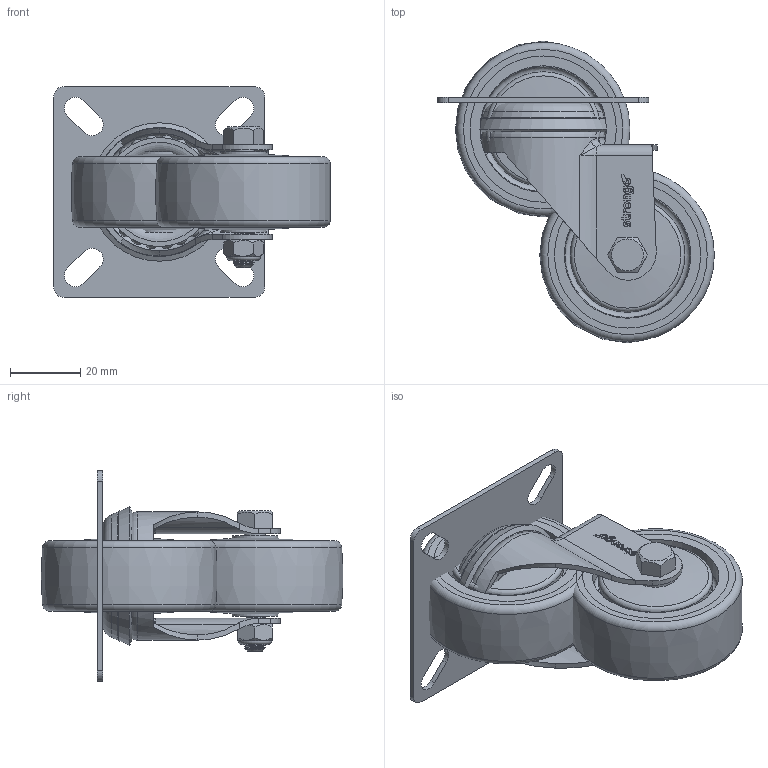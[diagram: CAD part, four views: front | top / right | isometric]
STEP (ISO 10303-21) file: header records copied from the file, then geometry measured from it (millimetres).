
FILE_DESCRIPTION(('STEP AP203'),'1');
FILE_NAME('E:/Pomoc/Strongo/344a39J050rZPC.stp',' ',(' '),(' '),'XStep 1.0',' ',' ');
FILE_SCHEMA(('CONFIG_CONTROL_DESIGN'));
Length unit declared in the file: metre
Products named in the file (3): Assembly60; Next assembly relationship; Assembly53
Bounding box: 78.67 x 85.76 x 60 mm (x, y, z)
Volume: 95535 mm3; surface area: 92858.8 mm2
Topology: 120 solids, 120 shells, 2228 faces, 6254 edges, 4130 vertices
Faces by surface type: plane 1818, cylinder 151, sphere 96, torus 71, cone 45, bspline 41, extrusion 4, revolution 2
Full cylindrical faces by diameter (mm): 1.038 x4, 2.007 x2, 5 x1, 6 x15, 6.3 x4, 6.5 x4, 9.8 x2, 10 x8, 10.2 x4, 13 x4, 13.5 x2, 14 x8, 22.4 x4, 23 x4, 23.9 x2, 26 x4, 30.5 x4, 31 x2, 32.5 x4, 33.5 x2, 36.287 x2, 36.5 x2, 41.6 x4
Entity records: 38038 total; most frequent: CARTESIAN_POINT 10372, ORIENTED_EDGE 5728, DIRECTION 5281, EDGE_CURVE 2864, VECTOR 2570, LINE 2568, VERTEX_POINT 1940, AXIS2_PLACEMENT_3D 1355
